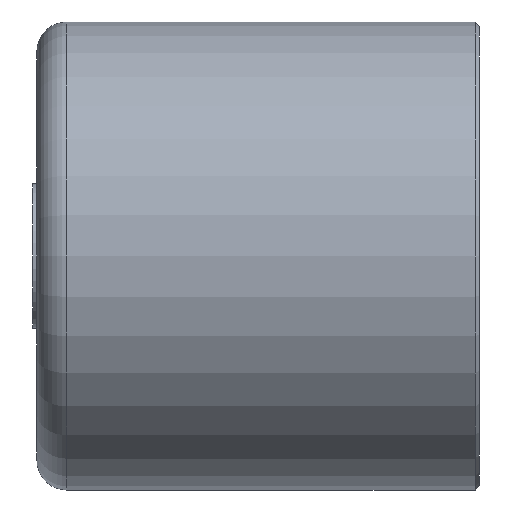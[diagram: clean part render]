
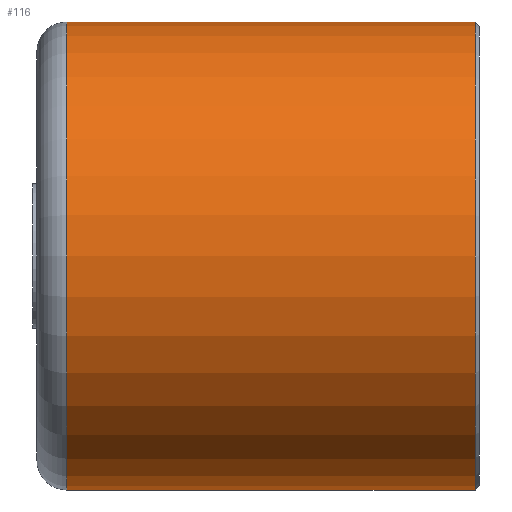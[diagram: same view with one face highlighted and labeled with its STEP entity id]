
A CAD part, front view. The second image highlights one B-rep face of the part: STEP entity #116.
In plain terms, the highlighted cylindrical face has radius 55 mm (diameter 110 mm), a full revolution.
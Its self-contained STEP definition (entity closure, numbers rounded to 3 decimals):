
#24=CYLINDRICAL_SURFACE('',#144,55.);
#34=ORIENTED_EDGE('',*,*,#49,.T.);
#35=ORIENTED_EDGE('',*,*,#48,.F.);
#48=EDGE_CURVE('',#57,#57,#66,.T.);
#49=EDGE_CURVE('',#58,#58,#67,.F.);
#57=VERTEX_POINT('',#208);
#58=VERTEX_POINT('',#211);
#66=CIRCLE('',#143,55.);
#67=CIRCLE('',#145,55.);
#79=EDGE_LOOP('',(#34));
#80=EDGE_LOOP('',(#35));
#97=FACE_BOUND('',#79,.T.);
#98=FACE_BOUND('',#80,.T.);
#116=ADVANCED_FACE('',(#97,#98),#24,.T.);
#143=AXIS2_PLACEMENT_3D('',#207,#173,#174);
#144=AXIS2_PLACEMENT_3D('',#209,#175,#176);
#145=AXIS2_PLACEMENT_3D('',#210,#177,#178);
#173=DIRECTION('',(-1.,0.,0.));
#174=DIRECTION('',(0.,0.,1.));
#175=DIRECTION('',(-1.,0.,0.));
#176=DIRECTION('',(0.,0.,1.));
#177=DIRECTION('',(1.,0.,0.));
#178=DIRECTION('',(0.,0.,-1.));
#207=CARTESIAN_POINT('',(-48.5,0.,0.));
#208=CARTESIAN_POINT('',(-48.5,0.,55.));
#209=CARTESIAN_POINT('',(-49.,0.,0.));
#210=CARTESIAN_POINT('',(47.5,0.,0.));
#211=CARTESIAN_POINT('',(47.5,0.,-55.));
